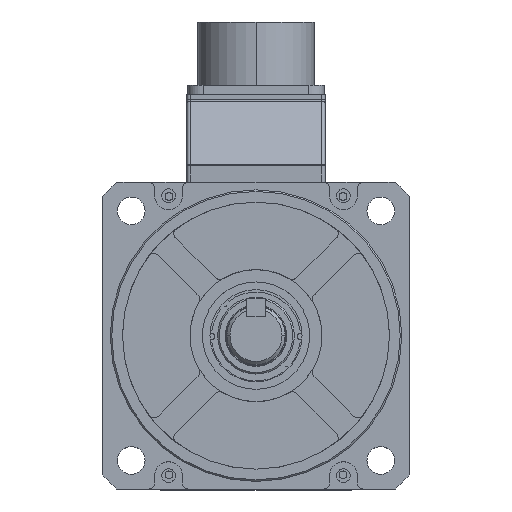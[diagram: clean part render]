
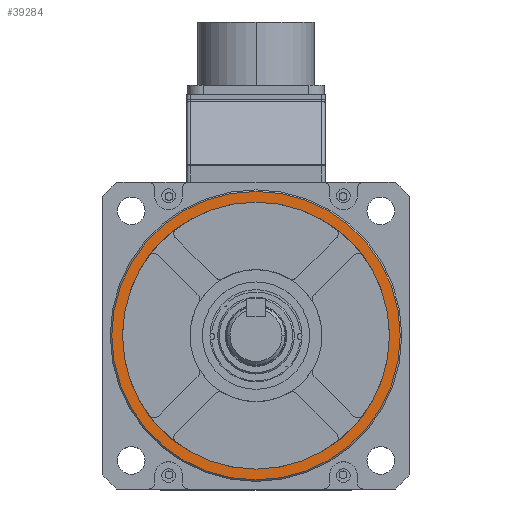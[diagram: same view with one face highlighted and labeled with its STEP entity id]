
A CAD part, top view. The second image highlights one B-rep face of the part: STEP entity #39284.
In plain terms, the highlighted planar face has unit normal (0, 0, 1).
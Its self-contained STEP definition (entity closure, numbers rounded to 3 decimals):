
#1458 = ORIENTED_EDGE ( 'NONE', *, *, #21527, .F. ) ;
#1743 = CIRCLE ( 'NONE', #3668, 47. ) ;
#2708 = CIRCLE ( 'NONE', #55725, 47. ) ;
#3171 = VERTEX_POINT ( 'NONE', #29740 ) ;
#3668 = AXIS2_PLACEMENT_3D ( 'NONE', #51424, #28502, #23655 ) ;
#6773 = DIRECTION ( 'NONE',  ( 0., 0., 1. ) ) ;
#7197 = CARTESIAN_POINT ( 'NONE',  ( 47., 0., 21.8 ) ) ;
#7302 = DIRECTION ( 'NONE',  ( 0., 0., 1. ) ) ;
#9649 = VERTEX_POINT ( 'NONE', #23786 ) ;
#12136 = EDGE_CURVE ( 'NONE', #55881, #9649, #2708, .T. ) ;
#14404 = CIRCLE ( 'NONE', #18298, 43.5 ) ;
#18298 = AXIS2_PLACEMENT_3D ( 'NONE', #49207, #39576, #20285 ) ;
#19207 = ORIENTED_EDGE ( 'NONE', *, *, #25985, .F. ) ;
#20285 = DIRECTION ( 'NONE',  ( 1., 0., 0. ) ) ;
#21183 = DIRECTION ( 'NONE',  ( 1., 0., 0. ) ) ;
#21527 = EDGE_CURVE ( 'NONE', #3171, #41843, #35102, .T. ) ;
#22764 = DIRECTION ( 'NONE',  ( 0., -1., 0. ) ) ;
#23360 = FACE_BOUND ( 'NONE', #59379, .T. ) ;
#23655 = DIRECTION ( 'NONE',  ( -1., 0., 0. ) ) ;
#23786 = CARTESIAN_POINT ( 'NONE',  ( -47., 0., 21.8 ) ) ;
#24594 = CARTESIAN_POINT ( 'NONE',  ( 0., 0., 21.8 ) ) ;
#25985 = EDGE_CURVE ( 'NONE', #41843, #3171, #14404, .T. ) ;
#26451 = AXIS2_PLACEMENT_3D ( 'NONE', #31424, #7302, #21183 ) ;
#28062 = EDGE_CURVE ( 'NONE', #9649, #55881, #1743, .T. ) ;
#28208 = FACE_OUTER_BOUND ( 'NONE', #32401, .T. ) ;
#28502 = DIRECTION ( 'NONE',  ( 0., 0., 1. ) ) ;
#28806 = PLANE ( 'NONE',  #29926 ) ;
#29740 = CARTESIAN_POINT ( 'NONE',  ( -43.5, 0., 21.8 ) ) ;
#29926 = AXIS2_PLACEMENT_3D ( 'NONE', #41782, #47201, #22764 ) ;
#30553 = ORIENTED_EDGE ( 'NONE', *, *, #12136, .T. ) ;
#31424 = CARTESIAN_POINT ( 'NONE',  ( 0., 0., 21.8 ) ) ;
#32401 = EDGE_LOOP ( 'NONE', ( #52105, #30553 ) ) ;
#35102 = CIRCLE ( 'NONE', #26451, 43.5 ) ;
#39284 = ADVANCED_FACE ( 'NONE', ( #23360, #28208 ), #28806, .F. ) ;
#39576 = DIRECTION ( 'NONE',  ( 0., 0., 1. ) ) ;
#41782 = CARTESIAN_POINT ( 'NONE',  ( 0., 0., 21.8 ) ) ;
#41843 = VERTEX_POINT ( 'NONE', #49541 ) ;
#44985 = DIRECTION ( 'NONE',  ( -1., 0., 0. ) ) ;
#47201 = DIRECTION ( 'NONE',  ( 0., 0., -1. ) ) ;
#49207 = CARTESIAN_POINT ( 'NONE',  ( 0., 0., 21.8 ) ) ;
#49541 = CARTESIAN_POINT ( 'NONE',  ( 43.5, 0., 21.8 ) ) ;
#51424 = CARTESIAN_POINT ( 'NONE',  ( 0., 0., 21.8 ) ) ;
#52105 = ORIENTED_EDGE ( 'NONE', *, *, #28062, .T. ) ;
#55725 = AXIS2_PLACEMENT_3D ( 'NONE', #24594, #6773, #44985 ) ;
#55881 = VERTEX_POINT ( 'NONE', #7197 ) ;
#59379 = EDGE_LOOP ( 'NONE', ( #19207, #1458 ) ) ;
